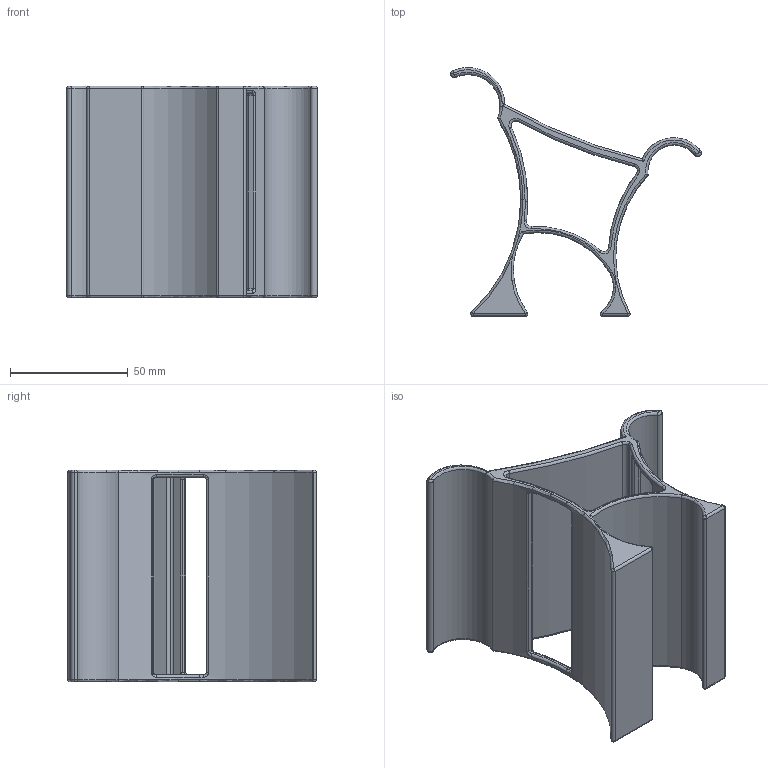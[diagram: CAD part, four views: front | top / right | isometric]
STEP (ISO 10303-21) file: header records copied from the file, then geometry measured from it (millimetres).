
FILE_DESCRIPTION (( 'STEP AP203' ), '1' );
FILE_NAME ('Watch stand 2.STEP', '2025-02-20T14:29:23', ( '' ), ( '' ), 'SwSTEP 2.0', 'SolidWorks 2024', '' );
FILE_SCHEMA (( 'CONFIG_CONTROL_DESIGN' ));
Length unit declared in the file: millimetre
Products named in the file (1): Watch stand 2
Bounding box: 106.53 x 105.57 x 90 mm (x, y, z)
Volume: 102590.9 mm3; surface area: 55276.2 mm2
Topology: 1 solids, 1 shells, 162 faces, 388 edges, 220 vertices
Faces by surface type: torus 66, cylinder 52, plane 16, bspline 16, sphere 12
Entity records: 5763 total; most frequent: CARTESIAN_POINT 1971, DIRECTION 860, ORIENTED_EDGE 760, AXIS2_PLACEMENT_3D 393, EDGE_CURVE 380, CIRCLE 246, VERTEX_POINT 220, EDGE_LOOP 168
